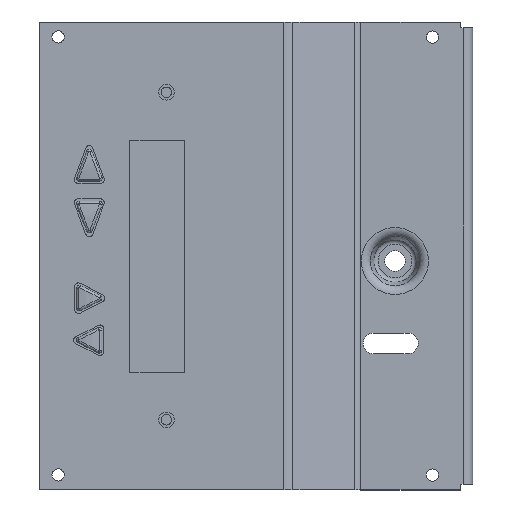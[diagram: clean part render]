
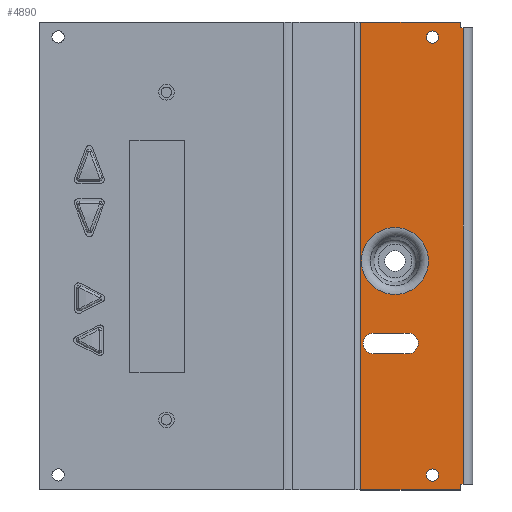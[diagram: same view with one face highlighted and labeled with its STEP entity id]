
A CAD part, top view. The second image highlights one B-rep face of the part: STEP entity #4890.
In plain terms, the highlighted planar face has unit normal (0, 0, 1).
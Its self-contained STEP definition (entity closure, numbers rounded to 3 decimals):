
#273=LINE('',#7268,#689);
#274=LINE('',#7271,#690);
#275=LINE('',#7273,#691);
#276=LINE('',#7275,#692);
#277=LINE('',#7277,#693);
#278=LINE('',#7279,#694);
#279=LINE('',#7281,#695);
#280=LINE('',#7283,#696);
#281=LINE('',#7288,#697);
#282=LINE('',#7293,#698);
#689=VECTOR('',#5771,1000.);
#690=VECTOR('',#5772,1000.);
#691=VECTOR('',#5773,1000.);
#692=VECTOR('',#5774,1000.);
#693=VECTOR('',#5775,1000.);
#694=VECTOR('',#5776,1000.);
#695=VECTOR('',#5777,1000.);
#696=VECTOR('',#5778,1000.);
#697=VECTOR('',#5783,1000.);
#698=VECTOR('',#5786,1000.);
#1110=ORIENTED_EDGE('',*,*,#2514,.T.);
#1111=ORIENTED_EDGE('',*,*,#2515,.F.);
#1112=ORIENTED_EDGE('',*,*,#2516,.F.);
#1113=ORIENTED_EDGE('',*,*,#2517,.F.);
#1114=ORIENTED_EDGE('',*,*,#2518,.T.);
#1115=ORIENTED_EDGE('',*,*,#2519,.T.);
#1116=ORIENTED_EDGE('',*,*,#2520,.T.);
#1117=ORIENTED_EDGE('',*,*,#2521,.T.);
#1118=ORIENTED_EDGE('',*,*,#2522,.T.);
#1119=ORIENTED_EDGE('',*,*,#2523,.T.);
#1120=ORIENTED_EDGE('',*,*,#2524,.T.);
#1121=ORIENTED_EDGE('',*,*,#2525,.T.);
#1122=ORIENTED_EDGE('',*,*,#2526,.T.);
#1123=ORIENTED_EDGE('',*,*,#2527,.T.);
#1124=ORIENTED_EDGE('',*,*,#2528,.T.);
#2514=EDGE_CURVE('',#3216,#3216,#3672,.F.);
#2515=EDGE_CURVE('',#3217,#3218,#273,.T.);
#2516=EDGE_CURVE('',#3219,#3217,#274,.T.);
#2517=EDGE_CURVE('',#3220,#3219,#275,.T.);
#2518=EDGE_CURVE('',#3220,#3221,#276,.T.);
#2519=EDGE_CURVE('',#3221,#3222,#277,.T.);
#2520=EDGE_CURVE('',#3222,#3223,#278,.T.);
#2521=EDGE_CURVE('',#3223,#3224,#279,.T.);
#2522=EDGE_CURVE('',#3224,#3218,#280,.T.);
#2523=EDGE_CURVE('',#3225,#3225,#3673,.F.);
#2524=EDGE_CURVE('',#3226,#3226,#3674,.F.);
#2525=EDGE_CURVE('',#3227,#3228,#281,.T.);
#2526=EDGE_CURVE('',#3228,#3229,#3675,.F.);
#2527=EDGE_CURVE('',#3229,#3230,#282,.T.);
#2528=EDGE_CURVE('',#3230,#3227,#3676,.F.);
#3216=VERTEX_POINT('',#7267);
#3217=VERTEX_POINT('',#7269);
#3218=VERTEX_POINT('',#7270);
#3219=VERTEX_POINT('',#7272);
#3220=VERTEX_POINT('',#7274);
#3221=VERTEX_POINT('',#7276);
#3222=VERTEX_POINT('',#7278);
#3223=VERTEX_POINT('',#7280);
#3224=VERTEX_POINT('',#7282);
#3225=VERTEX_POINT('',#7285);
#3226=VERTEX_POINT('',#7287);
#3227=VERTEX_POINT('',#7289);
#3228=VERTEX_POINT('',#7290);
#3229=VERTEX_POINT('',#7292);
#3230=VERTEX_POINT('',#7294);
#3672=CIRCLE('',#5214,1.651);
#3673=CIRCLE('',#5215,9.088);
#3674=CIRCLE('',#5216,1.651);
#3675=CIRCLE('',#5217,2.794);
#3676=CIRCLE('',#5218,2.794);
#3896=EDGE_LOOP('',(#1110));
#3897=EDGE_LOOP('',(#1111,#1112,#1113,#1114,#1115,#1116,#1117,#1118));
#3898=EDGE_LOOP('',(#1119));
#3899=EDGE_LOOP('',(#1120));
#3900=EDGE_LOOP('',(#1121,#1122,#1123,#1124));
#4324=FACE_BOUND('',#3896,.T.);
#4325=FACE_BOUND('',#3897,.T.);
#4326=FACE_BOUND('',#3898,.T.);
#4327=FACE_BOUND('',#3899,.T.);
#4328=FACE_BOUND('',#3900,.T.);
#4748=PLANE('',#5213);
#4890=ADVANCED_FACE('',(#4324,#4325,#4326,#4327,#4328),#4748,.T.);
#5213=AXIS2_PLACEMENT_3D('',#7265,#5767,#5768);
#5214=AXIS2_PLACEMENT_3D('',#7266,#5769,#5770);
#5215=AXIS2_PLACEMENT_3D('',#7284,#5779,#5780);
#5216=AXIS2_PLACEMENT_3D('',#7286,#5781,#5782);
#5217=AXIS2_PLACEMENT_3D('',#7291,#5784,#5785);
#5218=AXIS2_PLACEMENT_3D('',#7295,#5787,#5788);
#5767=DIRECTION('',(0.,0.,1.));
#5768=DIRECTION('',(1.,0.,0.));
#5769=DIRECTION('',(0.,0.,1.));
#5770=DIRECTION('',(1.,0.,0.));
#5771=DIRECTION('',(0.,-1.,0.));
#5772=DIRECTION('',(1.,0.,0.));
#5773=DIRECTION('',(0.,1.,0.));
#5774=DIRECTION('',(1.,0.,0.));
#5775=DIRECTION('',(0.,1.,0.));
#5776=DIRECTION('',(1.,0.,0.));
#5777=DIRECTION('',(0.,1.,0.));
#5778=DIRECTION('',(-1.,0.,0.));
#5779=DIRECTION('',(0.,0.,1.));
#5780=DIRECTION('',(1.,0.,0.));
#5781=DIRECTION('',(0.,0.,1.));
#5782=DIRECTION('',(1.,0.,0.));
#5783=DIRECTION('',(1.,0.,0.));
#5784=DIRECTION('',(0.,0.,1.));
#5785=DIRECTION('',(1.,0.,0.));
#5786=DIRECTION('',(-1.,0.,0.));
#5787=DIRECTION('',(0.,0.,1.));
#5788=DIRECTION('',(1.,0.,0.));
#7265=CARTESIAN_POINT('',(43.491,0.,23.154));
#7266=CARTESIAN_POINT('',(35.083,122.936,23.154));
#7267=CARTESIAN_POINT('',(36.734,122.936,23.154));
#7268=CARTESIAN_POINT('',(42.703,0.,23.154));
#7269=CARTESIAN_POINT('',(42.703,127.,23.154));
#7270=CARTESIAN_POINT('',(42.703,125.476,23.154));
#7271=CARTESIAN_POINT('',(43.491,127.,23.154));
#7272=CARTESIAN_POINT('',(15.62,127.,23.154));
#7273=CARTESIAN_POINT('',(15.62,0.,23.154));
#7274=CARTESIAN_POINT('',(15.62,0.,23.154));
#7275=CARTESIAN_POINT('',(43.491,0.,23.154));
#7276=CARTESIAN_POINT('',(42.703,0.,23.154));
#7277=CARTESIAN_POINT('',(42.703,0.,23.154));
#7278=CARTESIAN_POINT('',(42.703,1.524,23.154));
#7279=CARTESIAN_POINT('',(43.491,1.524,23.154));
#7280=CARTESIAN_POINT('',(43.491,1.524,23.154));
#7281=CARTESIAN_POINT('',(43.491,0.,23.154));
#7282=CARTESIAN_POINT('',(43.491,125.476,23.154));
#7283=CARTESIAN_POINT('',(43.491,125.476,23.154));
#7284=CARTESIAN_POINT('',(24.923,62.154,23.154));
#7285=CARTESIAN_POINT('',(34.011,62.154,23.154));
#7286=CARTESIAN_POINT('',(35.083,4.064,23.154));
#7287=CARTESIAN_POINT('',(36.734,4.064,23.154));
#7288=CARTESIAN_POINT('',(43.491,42.596,23.154));
#7289=CARTESIAN_POINT('',(19.081,42.596,23.154));
#7290=CARTESIAN_POINT('',(28.479,42.596,23.154));
#7291=CARTESIAN_POINT('',(28.479,39.802,23.154));
#7292=CARTESIAN_POINT('',(28.479,37.008,23.154));
#7293=CARTESIAN_POINT('',(43.491,37.008,23.154));
#7294=CARTESIAN_POINT('',(19.081,37.008,23.154));
#7295=CARTESIAN_POINT('',(19.081,39.802,23.154));
